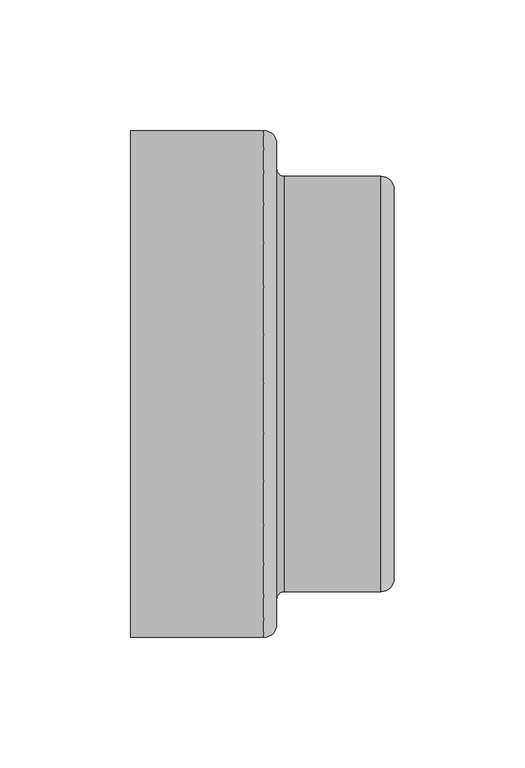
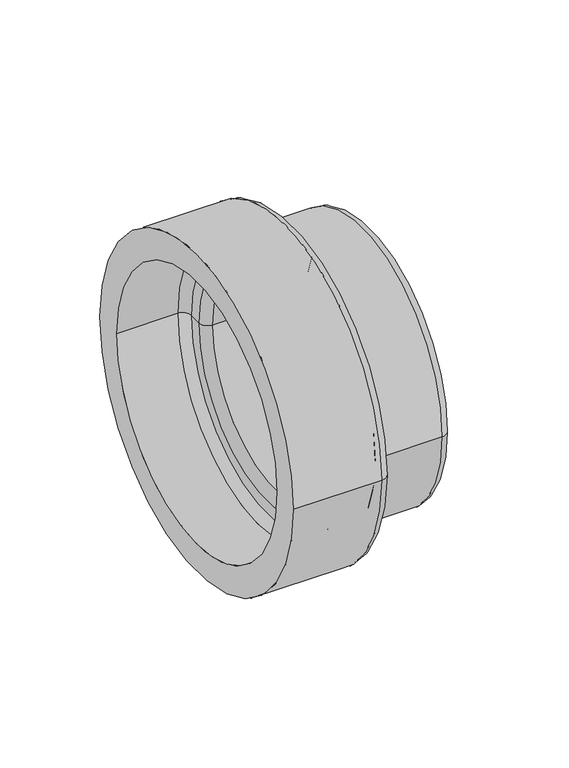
"""IFC4 building model written with IfcOpenShell, lengths in millimetres: duct fitting geometry, HEATPEX - ARIA ADURO - Redukcja : HEATPEX - ARIA ADURO - Redukcja."""

from ifc_helpers import new_model, si_unit, point, frame, origin, place, context, project, spatial, polyline, circle_curve, ellipse_curve, trimmed, source, transform, mapped, element, save
from ifc_brep_helpers import plane_surface, cylinder_surface, revolved_surface, advanced_brep


def duct_fitting_72554cf0(model_context):
    return source(origin(), model_context, "Body", "AdvancedBrep", [
        advanced_brep(
        [(17.5, -80.0, 0.0), (17.5, 80.0, 0.0), (-17.5, 80.0, 0.0), (-17.5, -80.0, 0.0), (22.5, -75.0, 0.0), (22.5, 75.0, 0.0), (22.5, -67.5, 0.0), (22.5, 67.5, 0.0), (27.5, -62.5, 0.0), (27.5, 62.5, 0.0), (80.5, -62.5, 0.0), (80.5, 62.5, 0.0), (83.5, -65.5, 0.0), (83.5, 65.5, 0.0), (83.5, -74.5000001, 0.0), (83.5, 74.5000001, 0.0), (78.5, -79.5000001, 0.0), (78.5, 79.5000001, 0.0), (41.5, -79.5000001, 0.0), (41.5, 79.5000001, 0.0), (38.5, -82.5000001, 0.0), (38.5, 82.5000001, 0.0), (38.5, -91.9999999, 0.0), (38.5, 91.9999999, 0.0), (33.5, -96.9999999, 0.0), (33.5, 96.9999999, 0.0), (-17.5, -96.9999999, 0.0), (-17.5, 96.9999999, 0.0)],
        [
            (0, 1, circle_curve(frame((17.5, 0.0, 0.0), z_axis=(1.0, 0.0, 0.0), x_axis=(0.0, 1.0, 0.0)), 80.0)),
            (1, 2),
            (2, 3, circle_curve(frame((-17.5, 0.0, 0.0), z_axis=(-1.0, 0.0, 0.0), x_axis=(0.0, 1.0, 0.0)), 80.0)),
            (3, 0),
            (1, 0, circle_curve(frame((17.5, 0.0, 0.0), z_axis=(1.0, 0.0, 0.0), x_axis=(0.0, 1.0, 0.0)), 80.0)),
            (3, 2, circle_curve(frame((-17.5, 0.0, 0.0), z_axis=(-1.0, 0.0, 0.0), x_axis=(0.0, 1.0, 0.0)), 80.0)),
            (0, 4, circle_curve(frame((17.5, -75.0, 0.0), z_axis=(0.0, 0.0, 1.0), x_axis=(1.0, 0.0, 0.0)), 5.0)),
            (4, 5, circle_curve(frame((22.5, 0.0, 0.0), z_axis=(1.0, 0.0, 0.0), x_axis=(0.0, 1.0, 0.0)), 75.0)),
            (5, 1, circle_curve(frame((17.5, 75.0, 0.0), z_axis=(0.0, 0.0, 1.0), x_axis=(1.0, 0.0, 0.0)), 5.0)),
            (5, 4, circle_curve(frame((22.5, 0.0, 0.0), z_axis=(1.0, 0.0, 0.0), x_axis=(0.0, 1.0, 0.0)), 75.0)),
            (4, 6),
            (6, 7, circle_curve(frame((22.5, 0.0, 0.0), z_axis=(1.0, 0.0, 0.0), x_axis=(0.0, 1.0, 0.0)), 67.5)),
            (7, 5),
            (7, 6, circle_curve(frame((22.5, 0.0, 0.0), z_axis=(1.0, 0.0, 0.0), x_axis=(0.0, 1.0, 0.0)), 67.5)),
            (6, 8, circle_curve(frame((27.5, -67.5, 0.0), z_axis=(0.0, 0.0, -1.0), x_axis=(1.0, 0.0, 0.0)), 5.0)),
            (8, 9, circle_curve(frame((27.5, 0.0, 0.0), z_axis=(1.0, 0.0, 0.0), x_axis=(0.0, 1.0, 0.0)), 62.5)),
            (9, 7, circle_curve(frame((27.5, 67.5, 0.0), z_axis=(0.0, 0.0, -1.0), x_axis=(1.0, 0.0, 0.0)), 5.0)),
            (9, 8, circle_curve(frame((27.5, 0.0, 0.0), z_axis=(1.0, 0.0, 0.0), x_axis=(0.0, 1.0, 0.0)), 62.5)),
            (8, 10),
            (10, 11, circle_curve(frame((80.5, 0.0, 0.0), z_axis=(1.0, 0.0, 0.0), x_axis=(0.0, 1.0, 0.0)), 62.5)),
            (11, 9),
            (11, 10, circle_curve(frame((80.5, 0.0, 0.0), z_axis=(1.0, 0.0, 0.0), x_axis=(0.0, 1.0, 0.0)), 62.5)),
            (10, 12, circle_curve(frame((80.5, -65.5, 0.0), z_axis=(0.0, 0.0, -1.0), x_axis=(1.0, 0.0, 0.0)), 3.0)),
            (12, 13, circle_curve(frame((83.5, 0.0, 0.0), z_axis=(1.0, 0.0, 0.0), x_axis=(0.0, 1.0, 0.0)), 65.5)),
            (13, 11, circle_curve(frame((80.5, 65.5, 0.0), z_axis=(0.0, 0.0, -1.0), x_axis=(1.0, 0.0, 0.0)), 3.0)),
            (13, 12, circle_curve(frame((83.5, 0.0, 0.0), z_axis=(1.0, 0.0, 0.0), x_axis=(0.0, 1.0, 0.0)), 65.5)),
            (12, 14),
            (14, 15, circle_curve(frame((83.5, 0.0, 0.0), z_axis=(1.0, 0.0, 0.0), x_axis=(0.0, 1.0, 0.0)), 74.5000001)),
            (15, 13),
            (15, 14, circle_curve(frame((83.5, 0.0, 0.0), z_axis=(1.0, 0.0, 0.0), x_axis=(0.0, 1.0, 0.0)), 74.5000001)),
            (14, 16, circle_curve(frame((78.5, -74.5000001, 0.0), z_axis=(0.0, 0.0, -1.0), x_axis=(1.0, 0.0, 0.0)), 5.0)),
            (16, 17, circle_curve(frame((78.5, 0.0, 0.0), z_axis=(1.0, 0.0, 0.0), x_axis=(0.0, 1.0, 0.0)), 79.5000001)),
            (17, 15, circle_curve(frame((78.5, 74.5000001, 0.0), z_axis=(0.0, 0.0, -1.0), x_axis=(1.0, 0.0, 0.0)), 5.0)),
            (17, 16, circle_curve(frame((78.5, 0.0, 0.0), z_axis=(1.0, 0.0, 0.0), x_axis=(0.0, 1.0, 0.0)), 79.5000001)),
            (16, 18),
            (18, 19, circle_curve(frame((41.5, 0.0, 0.0), z_axis=(1.0, 0.0, 0.0), x_axis=(0.0, 1.0, 0.0)), 79.5000001)),
            (19, 17),
            (19, 18, circle_curve(frame((41.5, 0.0, 0.0), z_axis=(1.0, 0.0, 0.0), x_axis=(0.0, 1.0, 0.0)), 79.5000001)),
            (18, 20, circle_curve(frame((41.5, -82.5000001, 0.0), z_axis=(0.0, 0.0, 1.0), x_axis=(1.0, 0.0, 0.0)), 3.0)),
            (20, 21, circle_curve(frame((38.5, 0.0, 0.0), z_axis=(1.0, 0.0, 0.0), x_axis=(0.0, 1.0, 0.0)), 82.5000001)),
            (21, 19, circle_curve(frame((41.5, 82.5000001, 0.0), z_axis=(0.0, 0.0, 1.0), x_axis=(1.0, 0.0, 0.0)), 3.0)),
            (21, 20, circle_curve(frame((38.5, 0.0, 0.0), z_axis=(1.0, 0.0, 0.0), x_axis=(0.0, 1.0, 0.0)), 82.5000001)),
            (20, 22),
            (22, 23, circle_curve(frame((38.5, 0.0, 0.0), z_axis=(1.0, 0.0, 0.0), x_axis=(0.0, 1.0, 0.0)), 91.9999999)),
            (23, 21),
            (23, 22, circle_curve(frame((38.5, 0.0, 0.0), z_axis=(1.0, 0.0, 0.0), x_axis=(0.0, 1.0, 0.0)), 91.9999999)),
            (22, 24, circle_curve(frame((33.5, -91.9999999, 0.0), z_axis=(0.0, 0.0, -1.0), x_axis=(1.0, 0.0, 0.0)), 5.0)),
            (24, 25, circle_curve(frame((33.5, 0.0, 0.0), z_axis=(1.0, 0.0, 0.0), x_axis=(0.0, 1.0, 0.0)), 96.9999999)),
            (25, 23, circle_curve(frame((33.5, 91.9999999, 0.0), z_axis=(0.0, 0.0, -1.0), x_axis=(1.0, 0.0, 0.0)), 5.0)),
            (25, 24, circle_curve(frame((33.5, 0.0, 0.0), z_axis=(1.0, 0.0, 0.0), x_axis=(0.0, 1.0, 0.0)), 96.9999999)),
            (24, 26),
            (26, 27, circle_curve(frame((-17.5, 0.0, 0.0), z_axis=(1.0, 0.0, 0.0), x_axis=(0.0, 1.0, 0.0)), 96.9999999)),
            (27, 25),
            (27, 26, circle_curve(frame((-17.5, 0.0, 0.0), z_axis=(1.0, 0.0, 0.0), x_axis=(0.0, 1.0, 0.0)), 96.9999999)),
        ],
        [
            revolved_surface(polyline([(-17.5, 80.0, 0.0), (17.5, 80.0, 0.0)]), (-108.5, 0.0, 0.0), (-1.0, 0.0, 0.0)),
            revolved_surface(trimmed(ellipse_curve(frame((17.5, 75.0, 0.0), z_axis=(0.0, 0.0, -1.0), x_axis=(1.0, 0.0, 0.0)), 5.0, 5.0), [point((17.5, 80.0, 0.0))], [point((22.5, 75.0, 0.0))], True, "CARTESIAN"), (-108.5, 0.0, 0.0), (-1.0, 0.0, 0.0)),
            plane_surface(frame((22.5, 0.0, 0.0), z_axis=(-1.0, 0.0, 0.0), x_axis=(0.0, 1.0, 0.0))),
            revolved_surface(trimmed(ellipse_curve(frame((27.5, 67.5, 0.0), z_axis=(0.0, 0.0, 1.0), x_axis=(1.0, 0.0, 0.0)), 5.0, 5.0), [point((22.5, 67.5, 0.0))], [point((27.5, 62.5, 0.0))], True, "CARTESIAN"), (-108.5, 0.0, 0.0), (-1.0, 0.0, 0.0)),
            revolved_surface(polyline([(27.5, 62.5, 0.0), (80.5, 62.5, 0.0)]), (-108.5, 0.0, 0.0), (-1.0, 0.0, 0.0)),
            revolved_surface(trimmed(ellipse_curve(frame((80.5, 65.5, 0.0), z_axis=(0.0, 0.0, 1.0), x_axis=(1.0, 0.0, 0.0)), 3.0, 3.0), [point((80.5, 62.5, 0.0))], [point((83.5, 65.5, 0.0))], True, "CARTESIAN"), (-108.5, 0.0, 0.0), (-1.0, 0.0, 0.0)),
            plane_surface(frame((83.5, 0.0, 0.0), z_axis=(1.0, 0.0, 0.0), x_axis=(0.0, 1.0, 0.0))),
            revolved_surface(trimmed(ellipse_curve(frame((78.5, 74.5000001, 0.0), z_axis=(0.0, 0.0, 1.0), x_axis=(1.0, 0.0, 0.0)), 5.0, 5.0), [point((83.5, 74.5000001, 0.0))], [point((78.5, 79.5000001, 0.0))], True, "CARTESIAN"), (-108.5, 0.0, 0.0), (-1.0, 0.0, 0.0)),
            cylinder_surface(frame((-108.5, 0.0, 0.0), z_axis=(-1.0, 0.0, 0.0), x_axis=(0.0, 1.0, 0.0)), 79.5000001),
            revolved_surface(trimmed(ellipse_curve(frame((41.5, 82.5000001, 0.0), z_axis=(0.0, 0.0, -1.0), x_axis=(1.0, 0.0, 0.0)), 3.0, 3.0), [point((41.5, 79.5000001, 0.0))], [point((38.5, 82.5000001, 0.0))], True, "CARTESIAN"), (-108.5, 0.0, 0.0), (-1.0, 0.0, 0.0)),
            plane_surface(frame((38.5, 0.0, 0.0), z_axis=(1.0, 0.0, 0.0), x_axis=(0.0, 1.0, 0.0))),
            revolved_surface(trimmed(ellipse_curve(frame((33.5, 91.9999999, 0.0), z_axis=(0.0, 0.0, 1.0), x_axis=(1.0, 0.0, 0.0)), 5.0, 5.0), [point((38.5, 91.9999999, 0.0))], [point((33.5, 96.9999999, 0.0))], True, "CARTESIAN"), (-108.5, 0.0, 0.0), (-1.0, 0.0, 0.0)),
            cylinder_surface(frame((-108.5, 0.0, 0.0), z_axis=(-1.0, 0.0, 0.0), x_axis=(0.0, 1.0, 0.0)), 96.9999999),
            plane_surface(frame((-17.5, 0.0, 0.0), z_axis=(-1.0, 0.0, 0.0), x_axis=(0.0, 0.0, 1.0))),
        ],
        [
            (0, [[1, 2, 3, 4]]),
            (0, [[5, -4, 6, -2]]),
            (1, [[-1, 7, 8, 9]]),
            (1, [[-5, -9, 10, -7]]),
            (2, [[-8, 11, 12, 13]]),
            (2, [[-10, -13, 14, -11]]),
            (3, [[-12, 15, 16, 17]]),
            (3, [[-14, -17, 18, -15]]),
            (4, [[-16, 19, 20, 21]]),
            (4, [[-18, -21, 22, -19]]),
            (5, [[-20, 23, 24, 25]]),
            (5, [[-22, -25, 26, -23]]),
            (6, [[-24, 27, 28, 29]]),
            (6, [[-26, -29, 30, -27]]),
            (7, [[-28, 31, 32, 33]]),
            (7, [[-30, -33, 34, -31]]),
            (8, [[-32, 35, 36, 37]]),
            (8, [[-34, -37, 38, -35]]),
            (9, [[-36, 39, 40, 41]]),
            (9, [[-38, -41, 42, -39]]),
            (10, [[-40, 43, 44, 45]]),
            (10, [[-42, -45, 46, -43]]),
            (11, [[-44, 47, 48, 49]]),
            (11, [[-46, -49, 50, -47]]),
            (12, [[-48, 51, 52, 53]]),
            (12, [[-50, -53, 54, -51]]),
            (13, [[-52, -54], [-3, -6]]),
        ],
    ),
    ])


if __name__ == "__main__":
    model = new_model("IFC4")
    model_context = context("Model", 3, world=origin())
    ifc_project = project(units=[si_unit("LENGTHUNIT", "METRE", prefix="MILLI")], contexts=[model_context])
    site = spatial("IfcSite", under=ifc_project)
    building = spatial("IfcBuilding", under=site)
    placement = place(None, origin())
    duct_fitting_shape = duct_fitting_72554cf0(model_context)
    element("IfcDuctFitting", 1, ObjectType="HEATPEX - ARIA ADURO - Redukcja : HEATPEX - ARIA ADURO - Redukcja", at=placement, inside=building, context=model_context, shape_type="MappedRepresentation", body=[
        mapped(duct_fitting_shape, transform((0.0, 0.0, 0.0), x_axis=(1.0, 0.0, 0.0), y_axis=(0.0, 1.0, 0.0), z_axis=(0.0, 0.0, 1.0))),
    ])
    save(model, "model.ifc")
